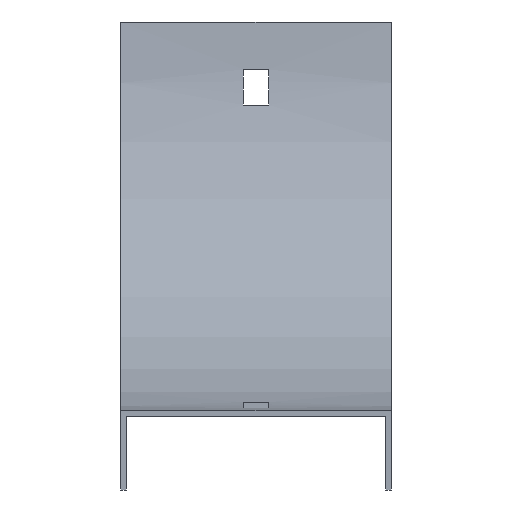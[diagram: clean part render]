
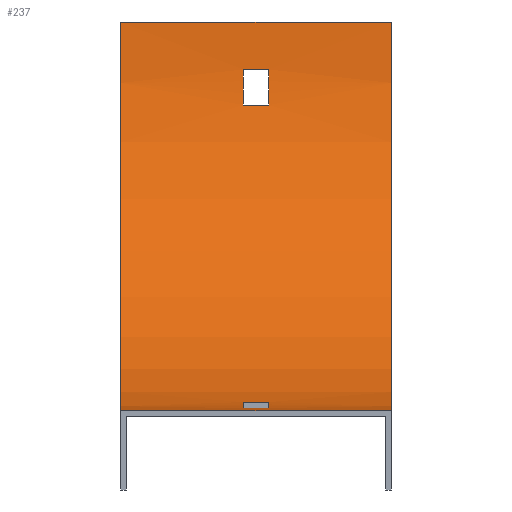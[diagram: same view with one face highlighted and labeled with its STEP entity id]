
A CAD part, top view. The second image highlights one B-rep face of the part: STEP entity #237.
In plain terms, the highlighted cylindrical face has radius 98.5 mm (diameter 197 mm), a partial arc.
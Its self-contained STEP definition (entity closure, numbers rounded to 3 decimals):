
#2 = CARTESIAN_POINT ( 'NONE',  ( 3.25, 0.734, -12. ) ) ;
#16 = EDGE_CURVE ( 'NONE', #551, #589, #154, .T. ) ;
#17 = CARTESIAN_POINT ( 'NONE',  ( -3.25, 2.265, -21. ) ) ;
#18 = CARTESIAN_POINT ( 'NONE',  ( 34.25, 0.734, -12. ) ) ;
#28 = CIRCLE ( 'NONE', #405, 98.5 ) ;
#36 = VERTEX_POINT ( 'NONE', #233 ) ;
#38 = EDGE_CURVE ( 'NONE', #87, #551, #532, .T. ) ;
#42 = ORIENTED_EDGE ( 'NONE', *, *, #16, .T. ) ;
#43 = CARTESIAN_POINT ( 'NONE',  ( 34.25, 0., 0. ) ) ;
#45 = EDGE_LOOP ( 'NONE', ( #107, #372, #100, #601 ) ) ;
#47 = CARTESIAN_POINT ( 'NONE',  ( 34.25, 98.5, -98.5 ) ) ;
#54 = VERTEX_POINT ( 'NONE', #526 ) ;
#59 = DIRECTION ( 'NONE',  ( -1., 0., 0. ) ) ;
#73 = CARTESIAN_POINT ( 'NONE',  ( 34.25, 0., 0. ) ) ;
#79 = FACE_BOUND ( 'NONE', #558, .T. ) ;
#84 = CIRCLE ( 'NONE', #435, 98.5 ) ;
#87 = VERTEX_POINT ( 'NONE', #494 ) ;
#100 = ORIENTED_EDGE ( 'NONE', *, *, #226, .F. ) ;
#105 = AXIS2_PLACEMENT_3D ( 'NONE', #499, #181, #221 ) ;
#106 = VECTOR ( 'NONE', #198, 1000. ) ;
#107 = ORIENTED_EDGE ( 'NONE', *, *, #368, .F. ) ;
#114 = CARTESIAN_POINT ( 'NONE',  ( 3.25, 98.5, 0. ) ) ;
#124 = ORIENTED_EDGE ( 'NONE', *, *, #269, .T. ) ;
#129 = ORIENTED_EDGE ( 'NONE', *, *, #377, .T. ) ;
#141 = VECTOR ( 'NONE', #605, 1000. ) ;
#146 = VERTEX_POINT ( 'NONE', #357 ) ;
#149 = EDGE_CURVE ( 'NONE', #87, #189, #495, .T. ) ;
#154 = CIRCLE ( 'NONE', #594, 98.5 ) ;
#168 = EDGE_CURVE ( 'NONE', #213, #503, #392, .T. ) ;
#174 = VECTOR ( 'NONE', #178, 1000. ) ;
#175 = ORIENTED_EDGE ( 'NONE', *, *, #38, .T. ) ;
#178 = DIRECTION ( 'NONE',  ( 1., 0., 0. ) ) ;
#181 = DIRECTION ( 'NONE',  ( -1., 0., 0. ) ) ;
#184 = LINE ( 'NONE', #307, #174 ) ;
#189 = VERTEX_POINT ( 'NONE', #73 ) ;
#191 = EDGE_CURVE ( 'NONE', #413, #146, #543, .T. ) ;
#198 = DIRECTION ( 'NONE',  ( 1., 0., 0. ) ) ;
#213 = VERTEX_POINT ( 'NONE', #536 ) ;
#215 = VECTOR ( 'NONE', #290, 1000. ) ;
#217 = CIRCLE ( 'NONE', #298, 98.5 ) ;
#221 = DIRECTION ( 'NONE',  ( 0., 0., 1. ) ) ;
#225 = AXIS2_PLACEMENT_3D ( 'NONE', #588, #540, #348 ) ;
#226 = EDGE_CURVE ( 'NONE', #509, #213, #84, .T. ) ;
#233 = CARTESIAN_POINT ( 'NONE',  ( -3.25, 77.5, -96.235 ) ) ;
#237 = ADVANCED_FACE ( 'NONE', ( #596, #79, #550 ), #369, .F. ) ;
#241 = DIRECTION ( 'NONE',  ( -1., 0., 0. ) ) ;
#244 = DIRECTION ( 'NONE',  ( -1., 0., 0. ) ) ;
#247 = CARTESIAN_POINT ( 'NONE',  ( 3.25, 77.5, -96.235 ) ) ;
#248 = EDGE_CURVE ( 'NONE', #501, #54, #184, .T. ) ;
#258 = DIRECTION ( 'NONE',  ( 1., 0., 0. ) ) ;
#262 = DIRECTION ( 'NONE',  ( 0., 0., 1. ) ) ;
#269 = EDGE_CURVE ( 'NONE', #146, #501, #28, .T. ) ;
#273 = DIRECTION ( 'NONE',  ( 0., 0., -1. ) ) ;
#283 = EDGE_CURVE ( 'NONE', #189, #589, #313, .T. ) ;
#290 = DIRECTION ( 'NONE',  ( -1., 0., 0. ) ) ;
#292 = DIRECTION ( 'NONE',  ( -1., 0., 0. ) ) ;
#293 = EDGE_CURVE ( 'NONE', #36, #509, #427, .T. ) ;
#298 = AXIS2_PLACEMENT_3D ( 'NONE', #560, #59, #524 ) ;
#301 = CARTESIAN_POINT ( 'NONE',  ( -34.25, 98.5, -98.5 ) ) ;
#307 = CARTESIAN_POINT ( 'NONE',  ( 34.25, 2.265, -21. ) ) ;
#313 = LINE ( 'NONE', #43, #141 ) ;
#331 = EDGE_LOOP ( 'NONE', ( #42, #362, #380, #175 ) ) ;
#341 = AXIS2_PLACEMENT_3D ( 'NONE', #470, #241, #273 ) ;
#348 = DIRECTION ( 'NONE',  ( 0., 0., 1. ) ) ;
#357 = CARTESIAN_POINT ( 'NONE',  ( -3.25, 0.734, -12. ) ) ;
#362 = ORIENTED_EDGE ( 'NONE', *, *, #283, .F. ) ;
#368 = EDGE_CURVE ( 'NONE', #503, #36, #217, .T. ) ;
#369 = CYLINDRICAL_SURFACE ( 'NONE', #105, 98.5 ) ;
#372 = ORIENTED_EDGE ( 'NONE', *, *, #168, .F. ) ;
#373 = CARTESIAN_POINT ( 'NONE',  ( -3.25, 98.5, 0. ) ) ;
#377 = EDGE_CURVE ( 'NONE', #54, #413, #606, .T. ) ;
#378 = ORIENTED_EDGE ( 'NONE', *, *, #191, .T. ) ;
#380 = ORIENTED_EDGE ( 'NONE', *, *, #149, .F. ) ;
#386 = DIRECTION ( 'NONE',  ( -1., 0., 0. ) ) ;
#390 = VECTOR ( 'NONE', #292, 1000. ) ;
#392 = LINE ( 'NONE', #590, #453 ) ;
#404 = DIRECTION ( 'NONE',  ( 1., 0., 0. ) ) ;
#405 = AXIS2_PLACEMENT_3D ( 'NONE', #373, #258, #552 ) ;
#413 = VERTEX_POINT ( 'NONE', #2 ) ;
#419 = CARTESIAN_POINT ( 'NONE',  ( -34.25, 98.5, 0. ) ) ;
#427 = LINE ( 'NONE', #527, #106 ) ;
#435 = AXIS2_PLACEMENT_3D ( 'NONE', #114, #404, #262 ) ;
#453 = VECTOR ( 'NONE', #244, 1000. ) ;
#470 = CARTESIAN_POINT ( 'NONE',  ( 3.25, 98.5, 0. ) ) ;
#494 = CARTESIAN_POINT ( 'NONE',  ( 34.25, 98.5, -98.5 ) ) ;
#495 = CIRCLE ( 'NONE', #225, 98.5 ) ;
#499 = CARTESIAN_POINT ( 'NONE',  ( 34.25, 98.5, 0. ) ) ;
#501 = VERTEX_POINT ( 'NONE', #17 ) ;
#503 = VERTEX_POINT ( 'NONE', #574 ) ;
#509 = VERTEX_POINT ( 'NONE', #247 ) ;
#517 = DIRECTION ( 'NONE',  ( 0., 0., 1. ) ) ;
#524 = DIRECTION ( 'NONE',  ( 0., 1., 0. ) ) ;
#526 = CARTESIAN_POINT ( 'NONE',  ( 3.25, 2.265, -21. ) ) ;
#527 = CARTESIAN_POINT ( 'NONE',  ( 34.25, 77.5, -96.235 ) ) ;
#532 = LINE ( 'NONE', #47, #215 ) ;
#536 = CARTESIAN_POINT ( 'NONE',  ( 3.25, 86.5, -97.766 ) ) ;
#540 = DIRECTION ( 'NONE',  ( -1., 0., 0. ) ) ;
#543 = LINE ( 'NONE', #18, #390 ) ;
#550 = FACE_BOUND ( 'NONE', #45, .T. ) ;
#551 = VERTEX_POINT ( 'NONE', #301 ) ;
#552 = DIRECTION ( 'NONE',  ( 0., 0., 1. ) ) ;
#558 = EDGE_LOOP ( 'NONE', ( #378, #124, #599, #129 ) ) ;
#560 = CARTESIAN_POINT ( 'NONE',  ( -3.25, 98.5, 0. ) ) ;
#574 = CARTESIAN_POINT ( 'NONE',  ( -3.25, 86.5, -97.766 ) ) ;
#588 = CARTESIAN_POINT ( 'NONE',  ( 34.25, 98.5, 0. ) ) ;
#589 = VERTEX_POINT ( 'NONE', #591 ) ;
#590 = CARTESIAN_POINT ( 'NONE',  ( 34.25, 86.5, -97.766 ) ) ;
#591 = CARTESIAN_POINT ( 'NONE',  ( -34.25, 0., 0. ) ) ;
#594 = AXIS2_PLACEMENT_3D ( 'NONE', #419, #386, #517 ) ;
#596 = FACE_OUTER_BOUND ( 'NONE', #331, .T. ) ;
#599 = ORIENTED_EDGE ( 'NONE', *, *, #248, .T. ) ;
#601 = ORIENTED_EDGE ( 'NONE', *, *, #293, .F. ) ;
#605 = DIRECTION ( 'NONE',  ( -1., 0., 0. ) ) ;
#606 = CIRCLE ( 'NONE', #341, 98.5 ) ;
